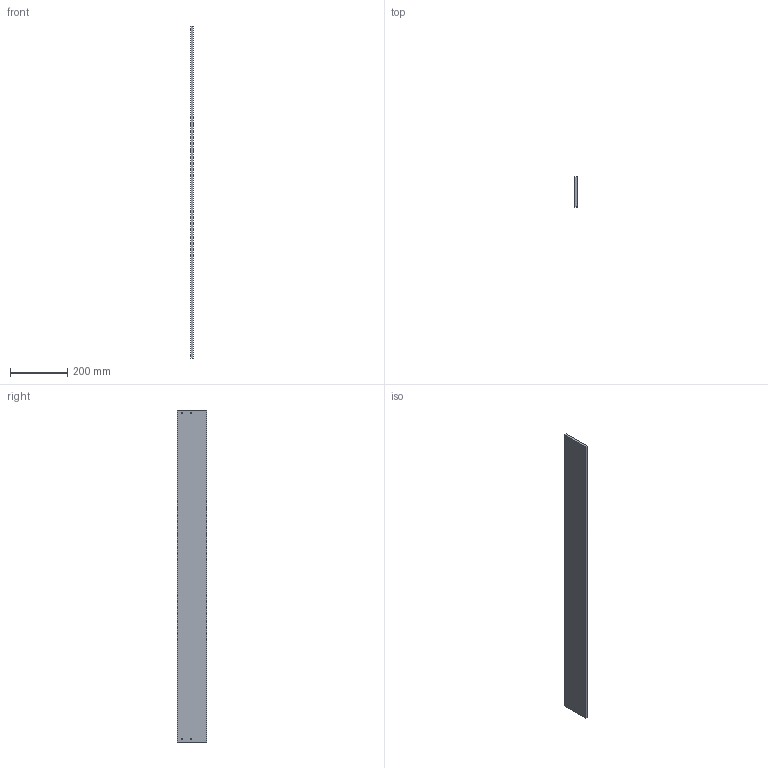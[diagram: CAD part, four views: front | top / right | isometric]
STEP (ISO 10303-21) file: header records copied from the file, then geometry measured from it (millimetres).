
FILE_DESCRIPTION (( 'STEP AP214' ), '1' );
FILE_NAME ('Innenblende_H89_NL1200_PD52002000.STEP', '2014-07-09T10:38:41', ( '' ), ( '' ), 'SwSTEP 2.0', 'SolidWorks 2013', '' );
FILE_SCHEMA (( 'AUTOMOTIVE_DESIGN' ));
Length unit declared in the file: millimetre
Products named in the file (1): Innenblende_H89_NL1200_PD52002000
Bounding box: 7.5 x 104 x 1160 mm (x, y, z)
Volume: 904636 mm3; surface area: 260458.7 mm2
Topology: 1 solids, 1 shells, 18 faces, 36 edges, 24 vertices
Faces by surface type: plane 10, cylinder 8
Entity records: 510 total; most frequent: DIRECTION 90, CARTESIAN_POINT 79, ORIENTED_EDGE 72, EDGE_CURVE 36, AXIS2_PLACEMENT_3D 35, VERTEX_POINT 24, EDGE_LOOP 22, LINE 20
